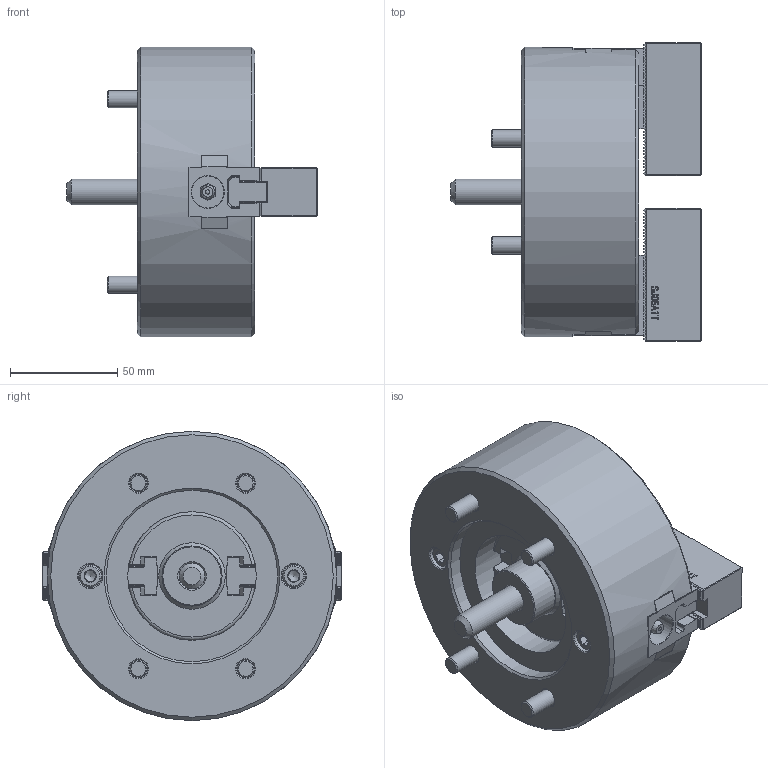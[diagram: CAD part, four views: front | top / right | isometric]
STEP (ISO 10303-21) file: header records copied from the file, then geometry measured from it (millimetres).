
FILE_DESCRIPTION (( 'STEP AP214' ), '1' );
FILE_NAME ('DT1_NT05_OUTSIDE_VIEW_HUL.STEP', '2024-05-14T01:01:25', ( '' ), ( '' ), 'SwSTEP 2.0', 'SolidWorks 2022', '' );
FILE_SCHEMA (( 'AUTOMOTIVE_DESIGN' ));
Length unit declared in the file: millimetre
Products named in the file (10): DT1_NT05_SOFTJAW^DT1_NT05_ﾃﾞﾌｫﾙﾄ; DT1_NT05_M8x60^DT1_NT05_ﾃﾞﾌｫﾙﾄ; DT1_NT05_COVER^DT1_NT05_ﾃﾞﾌｫﾙﾄ; DT1_NT05_DRAWSCREW^DT1_NT05_ﾃﾞﾌｫﾙﾄ; DT1_NT05_TNUT^DT1_NT05_ﾃﾞﾌｫﾙﾄ; DT1_NT05_OUTSIDE_VIEW_HUL; DT1_NT05_BASE^DT1_NT05_ﾃﾞﾌｫﾙﾄ; DT1_NT05_DN^DT1_NT05_ﾃﾞﾌｫﾙﾄ; DT1_NT05_M8x22^DT1_NT05_ﾃﾞﾌｫﾙﾄ; DT1_NT05_M4x8^DT1_NT05_ﾃﾞﾌｫﾙﾄ
Assembly tree (20 placements, depth 2):
  DT1_NT05_OUTSIDE_VIEW_HUL
    DT1_NT05_SOFTJAW^DT1_NT05_ﾃﾞﾌｫﾙﾄ  x2
    DT1_NT05_TNUT^DT1_NT05_ﾃﾞﾌｫﾙﾄ  x2
    DT1_NT05_COVER^DT1_NT05_ﾃﾞﾌｫﾙﾄ
    DT1_NT05_DRAWSCREW^DT1_NT05_ﾃﾞﾌｫﾙﾄ
    DT1_NT05_DN^DT1_NT05_ﾃﾞﾌｫﾙﾄ
    DT1_NT05_BASE^DT1_NT05_ﾃﾞﾌｫﾙﾄ
    DT1_NT05_M8x22^DT1_NT05_ﾃﾞﾌｫﾙﾄ  x4
    DT1_NT05_M8x60^DT1_NT05_ﾃﾞﾌｫﾙﾄ  x4
    DT1_NT05_M4x8^DT1_NT05_ﾃﾞﾌｫﾙﾄ  x4
Bounding box: 116.75 x 139.21 x 135 mm (x, y, z)
Volume: 790529.3 mm3; surface area: 131795.8 mm2
Topology: 20 solids, 20 shells, 2752 faces, 7738 edges, 5074 vertices
Faces by surface type: plane 1952, cylinder 433, bspline 216, cone 128, torus 21, sphere 2
Full cylindrical faces by diameter (mm): 2 x2, 3.3 x4, 3.571 x4, 4 x4, 6.99 x4, 8 x12, 8.3 x4, 8.5 x8, 10.22 x2, 10.5 x1, 11 x2, 12 x2, 13.27 x8, 13.5 x4, 14 x4, 15 x2, 17.5 x1, 18 x1, 28 x1, 60 x1, 80 x1, 135 x1
Entity records: 73641 total; most frequent: CARTESIAN_POINT 22088, ORIENTED_EDGE 11410, DIRECTION 9195, EDGE_CURVE 5705, VECTOR 4407, LINE 4407, VERTEX_POINT 3804, AXIS2_PLACEMENT_3D 2394
